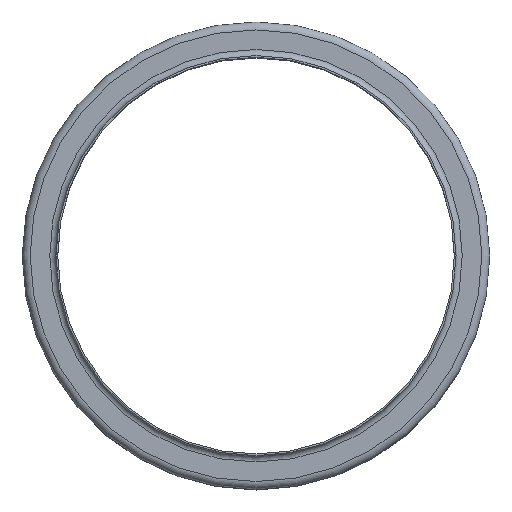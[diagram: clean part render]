
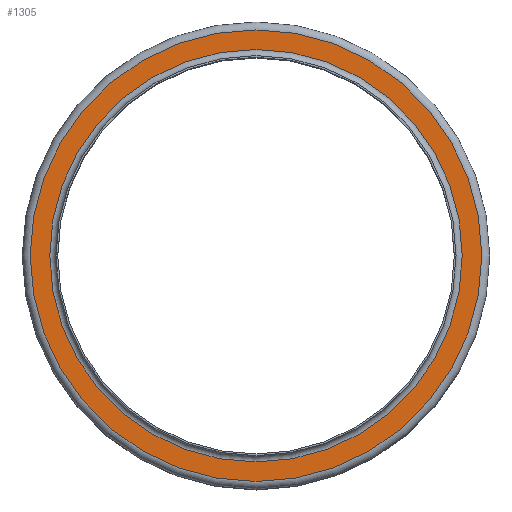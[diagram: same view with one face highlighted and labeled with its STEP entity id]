
A CAD part, top view. The second image highlights one B-rep face of the part: STEP entity #1305.
In plain terms, the highlighted planar face has unit normal (0, 0, 1).
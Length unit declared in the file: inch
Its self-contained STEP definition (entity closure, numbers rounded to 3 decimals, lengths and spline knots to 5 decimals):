
#130=FACE_BOUND('',#384,.T.);
#229=FACE_OUTER_BOUND('',#383,.T.);
#383=EDGE_LOOP('',(#1108));
#384=EDGE_LOOP('',(#1109));
#545=CIRCLE('',#1574,7.28);
#546=CIRCLE('',#1576,7.97);
#658=VERTEX_POINT('',#2470);
#659=VERTEX_POINT('',#2474);
#811=EDGE_CURVE('',#658,#658,#545,.T.);
#812=EDGE_CURVE('',#659,#659,#546,.T.);
#1108=ORIENTED_EDGE('',*,*,#812,.F.);
#1109=ORIENTED_EDGE('',*,*,#811,.T.);
#1206=PLANE('',#1575);
#1305=ADVANCED_FACE('',(#229,#130),#1206,.T.);
#1574=AXIS2_PLACEMENT_3D('',#2472,#2070,#2071);
#1575=AXIS2_PLACEMENT_3D('',#2473,#2072,#2073);
#1576=AXIS2_PLACEMENT_3D('',#2475,#2074,#2075);
#2070=DIRECTION('center_axis',(0.,0.,-1.));
#2071=DIRECTION('ref_axis',(1.,0.,0.));
#2072=DIRECTION('center_axis',(0.,0.,1.));
#2073=DIRECTION('ref_axis',(1.,0.,0.));
#2074=DIRECTION('center_axis',(0.,0.,-1.));
#2075=DIRECTION('ref_axis',(1.,0.,0.));
#2470=CARTESIAN_POINT('',(7.28,0.,-0.22));
#2472=CARTESIAN_POINT('Origin',(0.,0.,-0.22));
#2473=CARTESIAN_POINT('Origin',(0.,7.97,-0.22));
#2474=CARTESIAN_POINT('',(7.97,0.,-0.22));
#2475=CARTESIAN_POINT('Origin',(0.,0.,-0.22));
